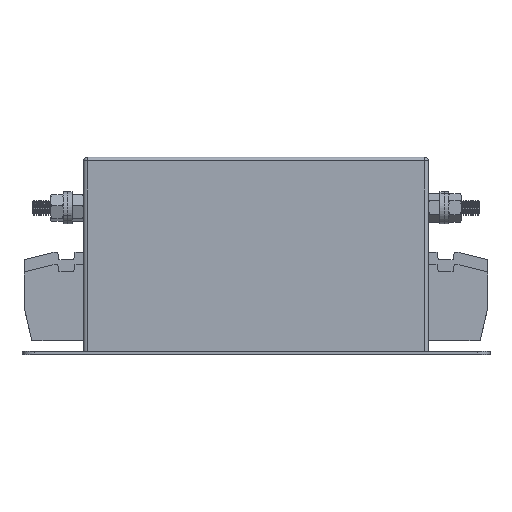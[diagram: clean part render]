
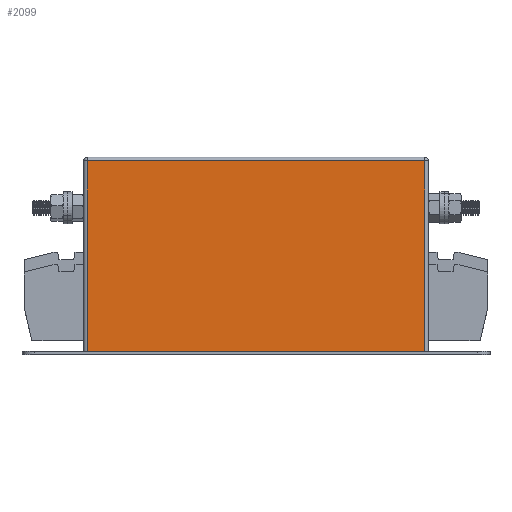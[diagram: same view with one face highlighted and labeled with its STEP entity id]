
A CAD part, top view. The second image highlights one B-rep face of the part: STEP entity #2099.
In plain terms, the highlighted planar face has unit normal (0, 0, 1).
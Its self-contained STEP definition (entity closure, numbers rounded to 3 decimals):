
#2079 = ORIENTED_EDGE ( 'NONE', *, *, #2080, .T. ) ;
#2080 = EDGE_CURVE ( 'NONE', #2107, #2081, #6377, .T. ) ;
#2081 = VERTEX_POINT ( 'NONE', #6373 ) ;
#2082 = ORIENTED_EDGE ( 'NONE', *, *, #2083, .T. ) ;
#2083 = EDGE_CURVE ( 'NONE', #2081, #2103, #6372, .T. ) ;
#2099 = ADVANCED_FACE ( 'NONE', ( #6400 ), #6399, .F. ) ;
#2100 = EDGE_LOOP ( 'NONE', ( #2101, #2105, #2079, #2082 ) ) ;
#2101 = ORIENTED_EDGE ( 'NONE', *, *, #2102, .T. ) ;
#2102 = EDGE_CURVE ( 'NONE', #2103, #2104, #6394, .T. ) ;
#2103 = VERTEX_POINT ( 'NONE', #6390 ) ;
#2104 = VERTEX_POINT ( 'NONE', #6389 ) ;
#2105 = ORIENTED_EDGE ( 'NONE', *, *, #2106, .T. ) ;
#2106 = EDGE_CURVE ( 'NONE', #2104, #2107, #6388, .T. ) ;
#2107 = VERTEX_POINT ( 'NONE', #6384 ) ;
#6369 = DIRECTION ( 'NONE',  ( 0., -1., 0. ) ) ;
#6370 = VECTOR ( 'NONE', #6369, 1000. ) ;
#6371 = CARTESIAN_POINT ( 'NONE',  ( 26.5, 80., 0. ) ) ;
#6372 = LINE ( 'NONE', #6371, #6370 ) ;
#6373 = CARTESIAN_POINT ( 'NONE',  ( 26.5, 78.5, 0. ) ) ;
#6374 = DIRECTION ( 'NONE',  ( -1., 0., 0. ) ) ;
#6375 = VECTOR ( 'NONE', #6374, 1000. ) ;
#6376 = CARTESIAN_POINT ( 'NONE',  ( 25., 78.5, 0. ) ) ;
#6377 = LINE ( 'NONE', #6376, #6375 ) ;
#6384 = CARTESIAN_POINT ( 'NONE',  ( 163.5, 78.5, 0. ) ) ;
#6385 = DIRECTION ( 'NONE',  ( 0., 1., 0. ) ) ;
#6386 = VECTOR ( 'NONE', #6385, 1000. ) ;
#6387 = CARTESIAN_POINT ( 'NONE',  ( 163.5, 80., 0. ) ) ;
#6388 = LINE ( 'NONE', #6387, #6386 ) ;
#6389 = CARTESIAN_POINT ( 'NONE',  ( 163.5, 1.2, 0. ) ) ;
#6390 = CARTESIAN_POINT ( 'NONE',  ( 26.5, 1.2, 0. ) ) ;
#6391 = DIRECTION ( 'NONE',  ( 1., 0., 0. ) ) ;
#6392 = VECTOR ( 'NONE', #6391, 1000. ) ;
#6393 = CARTESIAN_POINT ( 'NONE',  ( 25., 1.2, 0. ) ) ;
#6394 = LINE ( 'NONE', #6393, #6392 ) ;
#6395 = DIRECTION ( 'NONE',  ( -1., 0., 0. ) ) ;
#6396 = DIRECTION ( 'NONE',  ( 0., 0., -1. ) ) ;
#6397 = CARTESIAN_POINT ( 'NONE',  ( 25., 80., 0. ) ) ;
#6398 = AXIS2_PLACEMENT_3D ( 'NONE', #6397, #6396, #6395 ) ;
#6399 = PLANE ( 'NONE',  #6398 ) ;
#6400 = FACE_OUTER_BOUND ( 'NONE', #2100, .T. ) ;
